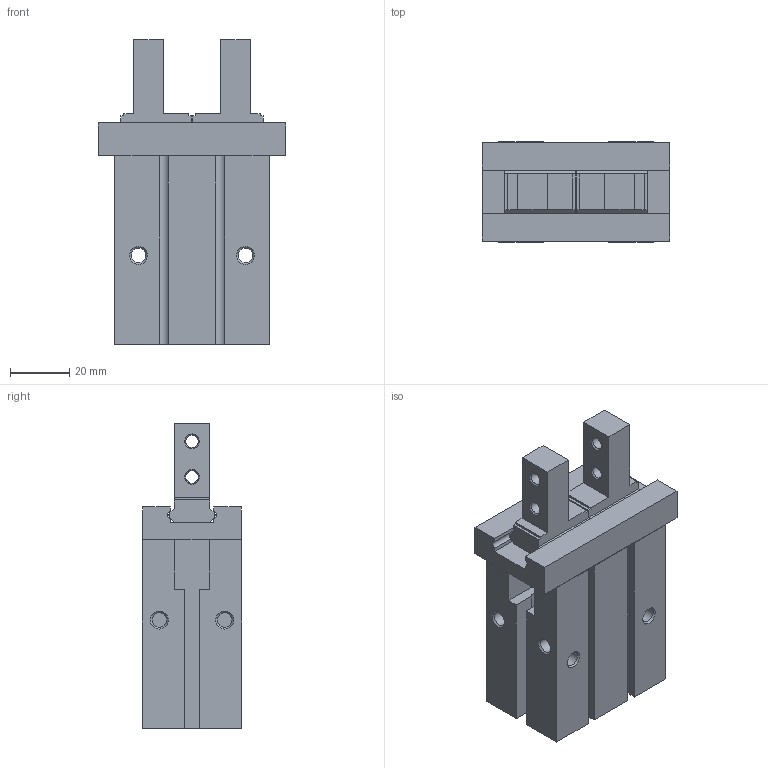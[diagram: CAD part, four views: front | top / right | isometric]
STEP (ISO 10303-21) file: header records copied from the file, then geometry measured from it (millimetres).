
FILE_DESCRIPTION( ( 'STEP AP214' ), '1' );
FILE_NAME( 'F:/CRG-3D-PAN-XU/CRG-chan pin kai fa cun dang - xu/协助/样品整理/平行夹/MHZ2-25D_19.3_0_.stp', '2023-03-07T10:05:51', ( '' ), ( '' ), ' ', 'PARTsolutions', ' ' );
FILE_SCHEMA( ( 'AUTOMOTIVE_DESIGN { 1 0 10303 214 1 1 1 1 }' ) );
Length unit declared in the file: millimetre
Products named in the file (3): MHZ2-25D(19.3_0); _MHZ2-25D_Body(0); _MHZ2-25D_Finger(0)
Assembly tree (3 placements, depth 2):
  MHZ2-25D(19.3_0)
    _MHZ2-25D_Body(0)
    _MHZ2-25D_Finger(0)  x2
Bounding box: 63 x 33.6 x 102.7 mm (x, y, z)
Volume: 120093.8 mm3; surface area: 30954.8 mm2
Topology: 3 solids, 3 shells, 202 faces, 528 edges, 342 vertices
Faces by surface type: plane 150, cylinder 30, cone 22
Full cylindrical faces by diameter (mm): 4 x1, 4.134 x6, 4.917 x8, 5.1 x4, 26 x1
Entity records: 6124 total; most frequent: CARTESIAN_POINT 822, DIRECTION 802, ORIENTED_EDGE 768, EDGE_CURVE 384, LINE 302, VECTOR 302, VERTEX_POINT 270, AXIS2_PLACEMENT_3D 250
